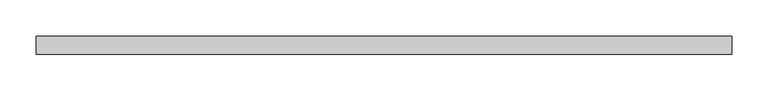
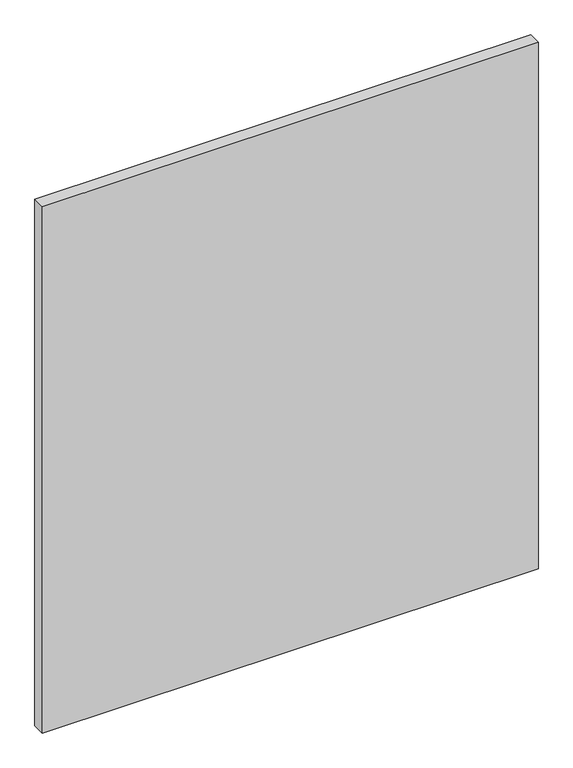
"""IFC4 building model written with IfcOpenShell, lengths in millimetres: plate geometry, 系統嵌板 : 有玻璃的."""

from ifc_helpers import new_model, si_unit, origin, origin_with_axes, place, context, project, spatial, polyline, outline, extrude, source, transform, mapped, element, save


def plate_24954efb(model_context):
    return source(origin(), model_context, "Body", "SweptSolid", [
        extrude(outline(polyline([(479.0797973, 24.5), (-479.0797973, 24.5), (-479.0797973, 49.5), (479.0797973, 49.5), (479.0797973, 24.5)])), origin_with_axes(), (0.0, 0.0, 1.0), 1074.8779336),
    ])


if __name__ == "__main__":
    model = new_model("IFC4")
    model_context = context("Model", 3, world=origin())
    ifc_project = project(units=[si_unit("LENGTHUNIT", "METRE", prefix="MILLI")], contexts=[model_context])
    site = spatial("IfcSite", under=ifc_project)
    building = spatial("IfcBuilding", under=site)
    placement = place(None, origin())
    plate_shape = plate_24954efb(model_context)
    element("IfcPlate", 1, ObjectType="系統嵌板 : 有玻璃的", at=placement, inside=building, context=model_context, shape_type="MappedRepresentation", body=[
        mapped(plate_shape, transform((0.0, 0.0, 0.0), x_axis=(1.0, 0.0, 0.0), y_axis=(0.0, 1.0, 0.0), z_axis=(0.0, 0.0, 1.0))),
    ])
    save(model, "model.ifc")
